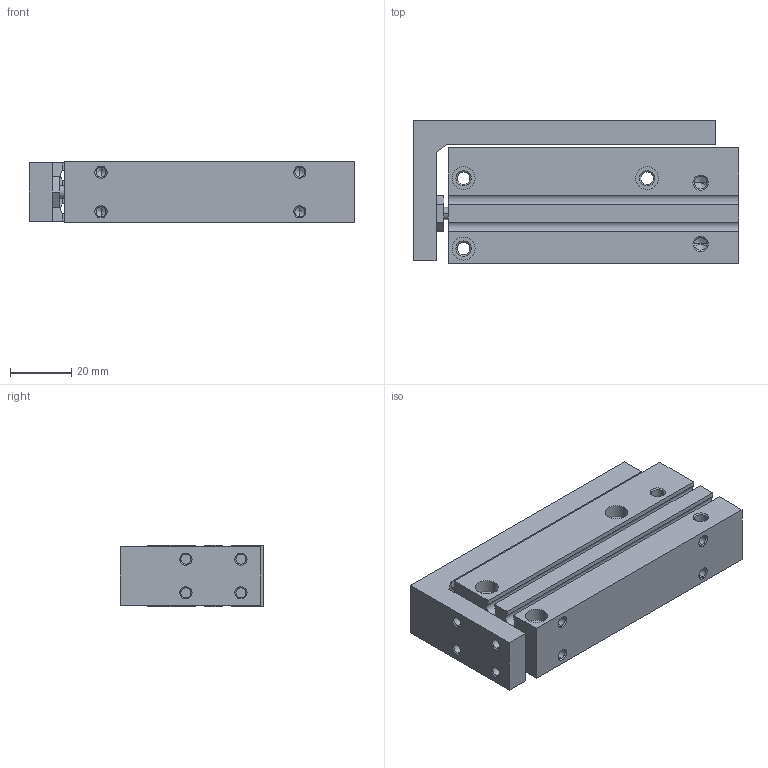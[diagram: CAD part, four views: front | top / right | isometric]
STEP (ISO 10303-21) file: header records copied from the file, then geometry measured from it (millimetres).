
FILE_DESCRIPTION (( 'STEP AP203' ), '1' );
FILE_NAME ('CXH10-60.STEP', '2020-04-16T18:08:53', ( '' ), ( '' ), 'SwSTEP 2.0', 'SolidWorks 2019', '' );
FILE_SCHEMA (( 'CONFIG_CONTROL_DESIGN' ));
Length unit declared in the file: millimetre
Products named in the file (1): CXH10-60
Bounding box: 106.5 x 47 x 20 mm (x, y, z)
Volume: 79357.3 mm3; surface area: 30208.9 mm2
Topology: 2 solids, 2 shells, 216 faces, 515 edges, 298 vertices
Faces by surface type: cone 92, cylinder 80, plane 44
Entity records: 6220 total; most frequent: DIRECTION 1141, CARTESIAN_POINT 1088, ORIENTED_EDGE 974, EDGE_CURVE 487, AXIS2_PLACEMENT_3D 441, VERTEX_POINT 298, EDGE_LOOP 265, LINE 259
